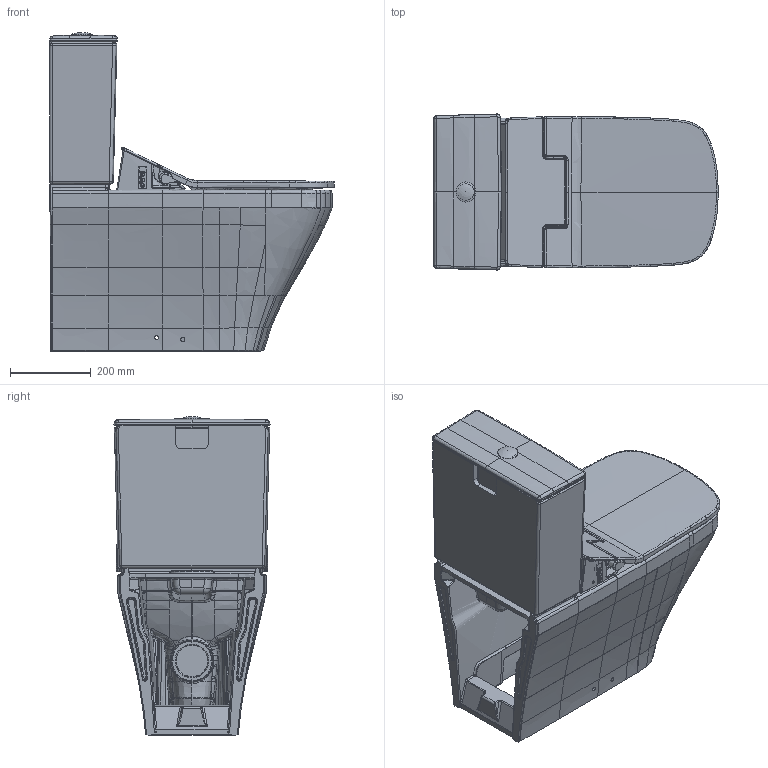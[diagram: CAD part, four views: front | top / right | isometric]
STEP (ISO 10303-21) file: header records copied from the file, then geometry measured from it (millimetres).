
FILE_DESCRIPTION((''),'2;1');
FILE_NAME('C:\Users\Administrator\Desktop\NEWS 2015 Step 1\SensoWash Slim 611200\3d\stp\215659_611200.stp','2015-07-03T21:05:34',('Administrator'),(''),'Autodesk Inventor 2011','Autodesk Inventor 2011','');
FILE_SCHEMA(('CONFIG_CONTROL_DESIGN'));
Length unit declared in the file: millimetre
Products named in the file (5): 215659_611200; 215659; 093500; 611200; SPK Taster Durastyle
Assembly tree (4 placements, depth 2):
  215659_611200
    215659
    093500
    611200
    SPK Taster Durastyle
Bounding box: 705.62 x 387.03 x 791.17 mm (x, y, z)
Volume: 37964143.8 mm3; surface area: 3700612.7 mm2
Topology: 24 solids, 24 shells, 4450 faces, 15590 edges, 11262 vertices
Faces by surface type: bspline 2689, plane 726, cylinder 713, torus 125, sphere 121, cone 76
Full cylindrical faces by diameter (mm): 0.613 x1, 0.628 x1, 0.695 x1, 0.713 x1, 0.782 x1, 0.803 x1, 0.916 x1, 0.94 x1, 1.091 x1, 1.119 x1, 2.4 x2, 3.4 x3, 3.5 x4, 4 x1, 5.5 x1, 6 x2, 6.5 x1, 7 x4, 8 x1, 9 x2, 10 x15, 12 x2, 15 x2, 16 x2, 19 x1, 19.8 x6, 20 x1, 40 x2, 50 x1, 63 x1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
Entity records: 458932 total; most frequent: CARTESIAN_POINT 337379, ORIENTED_EDGE 30720, DIRECTION 15723, EDGE_CURVE 15360, VERTEX_POINT 11205, B_SPLINE_CURVE_WITH_KNOTS 6942, AXIS2_PLACEMENT_3D 5535, EDGE_LOOP 4750
